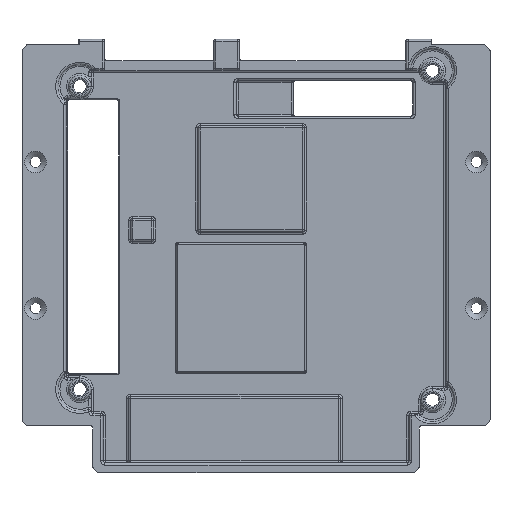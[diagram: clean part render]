
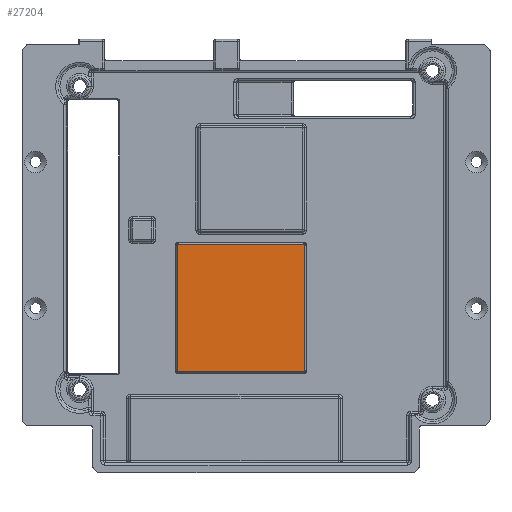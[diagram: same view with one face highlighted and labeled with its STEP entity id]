
A CAD part, front view. The second image highlights one B-rep face of the part: STEP entity #27204.
In plain terms, the highlighted planar face has unit normal (0, -1, 0).
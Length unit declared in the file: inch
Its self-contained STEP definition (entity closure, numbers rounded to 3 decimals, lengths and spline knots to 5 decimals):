
#11599=CARTESIAN_POINT('',(0.46569,0.117,-0.09695));
#11600=CARTESIAN_POINT('',(0.46569,0.117,-0.09654));
#11601=CARTESIAN_POINT('',(0.46564,0.117,-0.09571));
#11602=CARTESIAN_POINT('',(0.4654,0.117,-0.09442));
#11603=CARTESIAN_POINT('',(0.46495,0.117,-0.09308));
#11604=CARTESIAN_POINT('',(0.46425,0.117,-0.09169));
#11605=CARTESIAN_POINT('',(0.46323,0.117,-0.09029));
#11606=CARTESIAN_POINT('',(0.46182,0.117,-0.08897));
#11607=CARTESIAN_POINT('',(0.46004,0.117,-0.08787));
#11608=CARTESIAN_POINT('',(0.45795,0.117,-0.08713));
#11609=CARTESIAN_POINT('',(0.45647,0.117,-0.08696));
#11610=CARTESIAN_POINT('',(0.4557,0.117,-0.08696));
#11615=DIRECTION('',(0.,0.,1.));
#11616=VECTOR('',#11615,1.19839);
#11617=CARTESIAN_POINT('',(0.46569,0.117,-1.29535));
#11618=LINE('',#11617,#11616);
#11622=CARTESIAN_POINT('',(0.4557,0.117,-1.30534));
#11623=CARTESIAN_POINT('',(0.45611,0.117,-1.30534));
#11624=CARTESIAN_POINT('',(0.45694,0.117,-1.30529));
#11625=CARTESIAN_POINT('',(0.45823,0.117,-1.30505));
#11626=CARTESIAN_POINT('',(0.45957,0.117,-1.3046));
#11627=CARTESIAN_POINT('',(0.46096,0.117,-1.3039));
#11628=CARTESIAN_POINT('',(0.46236,0.117,-1.30288));
#11629=CARTESIAN_POINT('',(0.46368,0.117,-1.30147));
#11630=CARTESIAN_POINT('',(0.46478,0.117,-1.29969));
#11631=CARTESIAN_POINT('',(0.46552,0.117,-1.2976));
#11632=CARTESIAN_POINT('',(0.46569,0.117,-1.29612));
#11633=CARTESIAN_POINT('',(0.46569,0.117,-1.29535));
#11638=DIRECTION('',(1.,0.,0.));
#11639=VECTOR('',#11638,1.19839);
#11640=CARTESIAN_POINT('',(-0.7427,0.117,-1.30534));
#11641=LINE('',#11640,#11639);
#11645=CARTESIAN_POINT('',(-0.75269,0.117,-1.29535));
#11646=CARTESIAN_POINT('',(-0.75269,0.117,-1.29576));
#11647=CARTESIAN_POINT('',(-0.75264,0.117,-1.29659));
#11648=CARTESIAN_POINT('',(-0.7524,0.117,-1.29788));
#11649=CARTESIAN_POINT('',(-0.75195,0.117,-1.29922));
#11650=CARTESIAN_POINT('',(-0.75125,0.117,-1.30061));
#11651=CARTESIAN_POINT('',(-0.75023,0.117,-1.30201));
#11652=CARTESIAN_POINT('',(-0.74882,0.117,-1.30333));
#11653=CARTESIAN_POINT('',(-0.74704,0.117,-1.30443));
#11654=CARTESIAN_POINT('',(-0.74495,0.117,-1.30517));
#11655=CARTESIAN_POINT('',(-0.74347,0.117,-1.30534));
#11656=CARTESIAN_POINT('',(-0.7427,0.117,-1.30534));
#11661=DIRECTION('',(0.,0.,-1.));
#11662=VECTOR('',#11661,1.19839);
#11663=CARTESIAN_POINT('',(-0.75269,0.117,-0.09695));
#11664=LINE('',#11663,#11662);
#11668=CARTESIAN_POINT('',(-0.7427,0.117,-0.08696));
#11669=CARTESIAN_POINT('',(-0.74311,0.117,-0.08696));
#11670=CARTESIAN_POINT('',(-0.74394,0.117,-0.08701));
#11671=CARTESIAN_POINT('',(-0.74523,0.117,-0.08725));
#11672=CARTESIAN_POINT('',(-0.74657,0.117,-0.0877));
#11673=CARTESIAN_POINT('',(-0.74796,0.117,-0.0884));
#11674=CARTESIAN_POINT('',(-0.74936,0.117,-0.08942));
#11675=CARTESIAN_POINT('',(-0.75068,0.117,-0.09083));
#11676=CARTESIAN_POINT('',(-0.75178,0.117,-0.09261));
#11677=CARTESIAN_POINT('',(-0.75252,0.117,-0.0947));
#11678=CARTESIAN_POINT('',(-0.75269,0.117,-0.09618));
#11679=CARTESIAN_POINT('',(-0.75269,0.117,-0.09695));
#11684=DIRECTION('',(-1.,0.,0.));
#11685=VECTOR('',#11684,1.19839);
#11686=CARTESIAN_POINT('',(0.4557,0.117,-0.08696));
#11687=LINE('',#11686,#11685);
#13789=VERTEX_POINT('',#11599);
#13790=VERTEX_POINT('',#11610);
#13793=CARTESIAN_POINT('',(-0.7427,0.117,-0.08696));
#13794=VERTEX_POINT('',#13793);
#13797=VERTEX_POINT('',#11679);
#13799=CARTESIAN_POINT('',(-0.75269,0.117,-1.29535));
#13800=VERTEX_POINT('',#13799);
#13803=VERTEX_POINT('',#11656);
#13805=CARTESIAN_POINT('',(0.4557,0.117,-1.30534));
#13806=VERTEX_POINT('',#13805);
#13809=VERTEX_POINT('',#11633);
#27182=CARTESIAN_POINT('',(0.,0.117,0.));
#27183=DIRECTION('',(0.,-1.,0.));
#27184=DIRECTION('',(-1.,0.,0.));
#27185=AXIS2_PLACEMENT_3D('',#27182,#27183,#27184);
#27186=PLANE('',#27185);
#27188=ORIENTED_EDGE('',*,*,#27187,.F.);
#27189=ORIENTED_EDGE('',*,*,#27172,.F.);
#27191=ORIENTED_EDGE('',*,*,#27190,.F.);
#27193=ORIENTED_EDGE('',*,*,#27192,.F.);
#27195=ORIENTED_EDGE('',*,*,#27194,.F.);
#27197=ORIENTED_EDGE('',*,*,#27196,.F.);
#27199=ORIENTED_EDGE('',*,*,#27198,.F.);
#27201=ORIENTED_EDGE('',*,*,#27200,.F.);
#27202=EDGE_LOOP('',(#27188,#27189,#27191,#27193,#27195,#27197,#27199,#27201));
#27203=FACE_OUTER_BOUND('',#27202,.F.);
#27204=ADVANCED_FACE('',(#27203),#27186,.T.);
#11611=B_SPLINE_CURVE_WITH_KNOTS('',3,(#11599,#11600,#11601,#11602,#11603,
#11604,#11605,#11606,#11607,#11608,#11609,#11610),.UNSPECIFIED.,.F.,.F.,(4,1,1,
1,1,1,1,1,1,4),(0.,0.11111,0.22222,0.33333,
0.44444,0.55556,0.66667,0.77778,
0.88889,1.),.UNSPECIFIED.);
#11634=B_SPLINE_CURVE_WITH_KNOTS('',3,(#11622,#11623,#11624,#11625,#11626,
#11627,#11628,#11629,#11630,#11631,#11632,#11633),.UNSPECIFIED.,.F.,.F.,(4,1,1,
1,1,1,1,1,1,4),(0.,0.11111,0.22222,0.33333,
0.44444,0.55556,0.66667,0.77778,
0.88889,1.),.UNSPECIFIED.);
#11657=B_SPLINE_CURVE_WITH_KNOTS('',3,(#11645,#11646,#11647,#11648,#11649,
#11650,#11651,#11652,#11653,#11654,#11655,#11656),.UNSPECIFIED.,.F.,.F.,(4,1,1,
1,1,1,1,1,1,4),(0.,0.11111,0.22222,0.33333,
0.44444,0.55556,0.66667,0.77778,
0.88889,1.),.UNSPECIFIED.);
#11680=B_SPLINE_CURVE_WITH_KNOTS('',3,(#11668,#11669,#11670,#11671,#11672,
#11673,#11674,#11675,#11676,#11677,#11678,#11679),.UNSPECIFIED.,.F.,.F.,(4,1,1,
1,1,1,1,1,1,4),(0.,0.11111,0.22222,0.33333,
0.44444,0.55556,0.66667,0.77778,
0.88889,1.),.UNSPECIFIED.);
#27172=EDGE_CURVE('',#13809,#13789,#11618,.T.);
#27187=EDGE_CURVE('',#13789,#13790,#11611,.T.);
#27190=EDGE_CURVE('',#13806,#13809,#11634,.T.);
#27192=EDGE_CURVE('',#13803,#13806,#11641,.T.);
#27194=EDGE_CURVE('',#13800,#13803,#11657,.T.);
#27196=EDGE_CURVE('',#13797,#13800,#11664,.T.);
#27198=EDGE_CURVE('',#13794,#13797,#11680,.T.);
#27200=EDGE_CURVE('',#13790,#13794,#11687,.T.);
